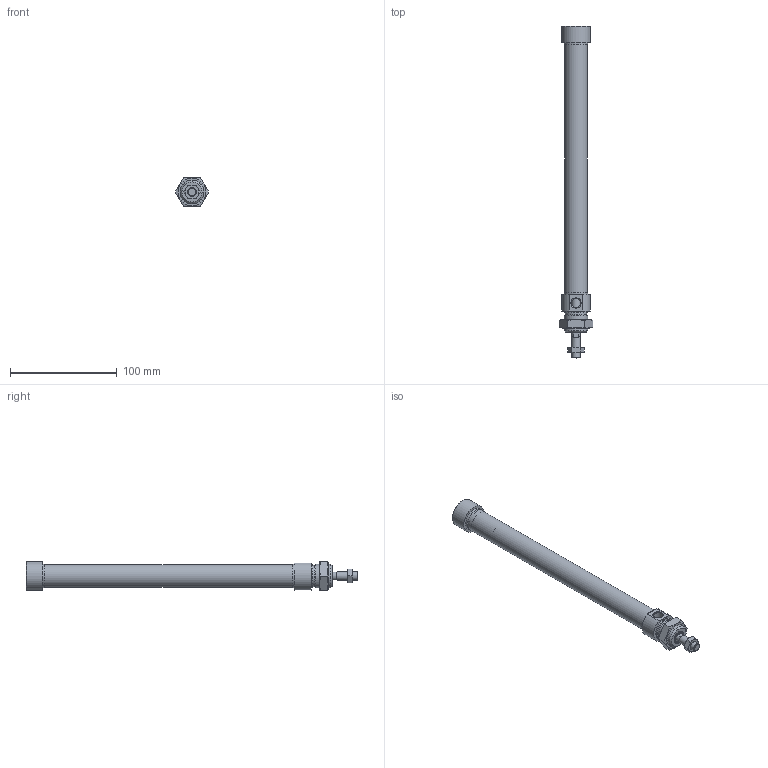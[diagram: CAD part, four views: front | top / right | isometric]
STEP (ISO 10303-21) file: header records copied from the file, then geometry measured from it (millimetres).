
FILE_DESCRIPTION(/* description */ ('Unknown'),/* implementation_level */ '2;1');
FILE_NAME(/* name */ 'RIMA 20_200',/* time_stamp */ '2024-08-30T13:05:53+02:00',/* author */ ('Unknown'),/* organization */ ('Unknown'),/* preprocessor_version */ 'ST-DEVELOPER v16.7',/* originating_system */ 'Solid Edge',/* authorisation */ 'Unknown');
FILE_SCHEMA (('AUTOMOTIVE_DESIGN {1 0 10303 214 3 1 1}'));
Length unit declared in the file: millimetre
Products named in the file (7): RIMA 20_200; Profilrohr; Kolbenstange; Kit_1; Kit_2; Mutter_1; Mutter_2
Assembly tree (6 placements, depth 2):
  RIMA 20_200
    Profilrohr
    Kolbenstange
    Kit_1
    Kit_2
    Mutter_1
    Mutter_2
Bounding box: 31.18 x 311 x 27 mm (x, y, z)
Volume: 59998.1 mm3; surface area: 49828.8 mm2
Topology: 6 solids, 6 shells, 121 faces, 240 edges, 148 vertices
Faces by surface type: plane 47, cone 39, cylinder 28, torus 7
Full cylindrical faces by diameter (mm): 1.7 x1, 6.647 x1, 8 x2, 8.5 x1, 8.56 x2, 8.566 x2, 9.1 x1, 12 x1, 12.1 x1, 14.1 x1, 14.2 x1, 17.9 x1, 19.7 x1, 20 x3, 20.376 x1, 21.27 x1, 22 x2, 22.2 x2, 27 x1
Entity records: 3667 total; most frequent: CARTESIAN_POINT 540, DIRECTION 488, ORIENTED_EDGE 340, AXIS2_PLACEMENT_3D 230, EDGE_LOOP 204, FACE_BOUND 204, EDGE_CURVE 170, VERTEX_POINT 136
